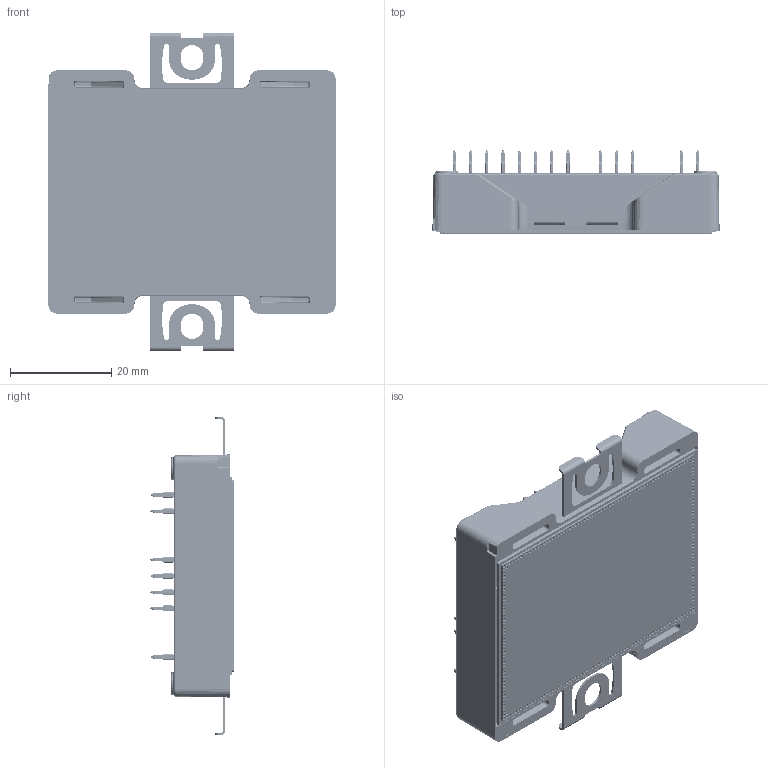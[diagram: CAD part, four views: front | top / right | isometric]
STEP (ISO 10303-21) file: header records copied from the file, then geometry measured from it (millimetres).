
FILE_DESCRIPTION (( 'STEP AP214' ), '1' );
FILE_NAME ('CHB011M12GM4T (2026-06-04).STEP', '2026-06-04T19:07:23', ( '' ), ( '' ), 'SwSTEP 2.0', 'SolidWorks 2025', '' );
FILE_SCHEMA (( 'AUTOMOTIVE_DESIGN' ));
Length unit declared in the file: millimetre
Products named in the file (1): CHB011M12GM4T (2026-06-04)
Bounding box: 56.7 x 16.4 x 62.8 mm (x, y, z)
Volume: 23584 mm3; surface area: 17811.5 mm2
Topology: 30 solids, 32 shells, 5163 faces, 12690 edges, 7914 vertices
Faces by surface type: cylinder 1581, plane 1456, cone 1064, bspline 1062
Entity records: 170603 total; most frequent: CARTESIAN_POINT 55943, ORIENTED_EDGE 25380, DIRECTION 22141, EDGE_CURVE 12690, AXIS2_PLACEMENT_3D 8566, VERTEX_POINT 7914, EDGE_LOOP 5826, FACE_OUTER_BOUND 5163
